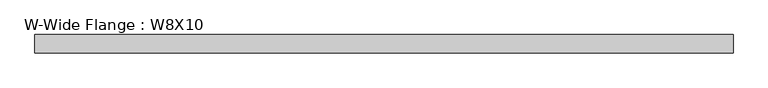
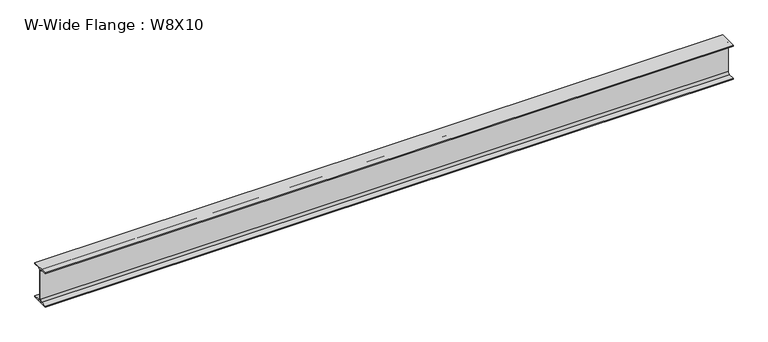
"""IFC4 building model written with IfcOpenShell, lengths in millimetres: beam geometry, W-Wide Flange : W8X10."""

from ifc_helpers import new_model, si_unit, point, frame, frame_2d, origin, place, context, project, spatial, polyline, circle_curve, trimmed, segment, composite_curve, outline, extrude, source, transform, mapped, element, save


def w_wide_flange_w8x10_1bc876d9(model_context):
    return source(origin(), model_context, "Body", "SweptSolid", [
        extrude(outline(composite_curve([segment(polyline([(50.038, -94.996), (50.038, -100.203), (-50.038, -100.203), (-50.038, -94.996), (-14.4145, -94.996)]), True, "CONTINUOUS"), segment(trimmed(circle_curve(frame_2d((-14.4145, -82.7405)), 12.2555), [point((-14.4145, -94.996))], [point((-2.159, -82.7405))], True, "CARTESIAN"), True, "CONTINUOUS"), segment(polyline([(-2.159, -82.7405), (-2.159, 82.7405)]), True, "CONTINUOUS"), segment(trimmed(circle_curve(frame_2d((-14.4145, 82.7405)), 12.2555), [point((-2.159, 82.7405))], [point((-14.4145, 94.996))], True, "CARTESIAN"), True, "CONTINUOUS"), segment(polyline([(-14.4145, 94.996), (-50.038, 94.996), (-50.038, 100.203), (50.038, 100.203), (50.038, 94.996), (14.4145, 94.996)]), True, "CONTINUOUS"), segment(trimmed(circle_curve(frame_2d((14.4145, 82.7405)), 12.2555), [point((14.4145, 94.996))], [point((2.159, 82.7405))], True, "CARTESIAN"), True, "CONTINUOUS"), segment(polyline([(2.159, 82.7405), (2.159, -82.7405)]), True, "CONTINUOUS"), segment(trimmed(circle_curve(frame_2d((14.4145, -82.7405)), 12.2555), [point((2.159, -82.7405))], [point((14.4145, -94.996))], True, "CARTESIAN"), True, "CONTINUOUS"), segment(polyline([(14.4145, -94.996), (50.038, -94.996)]), True, "CONTINUOUS")], self_intersect=False)), frame((-1916.0628906, 0.0, 0.0), z_axis=(1.0, 0.0, 0.0), x_axis=(0.0, 1.0, 0.0)), (0.0, 0.0, 1.0), 3832.1257812),
    ])


if __name__ == "__main__":
    model = new_model("IFC4")
    model_context = context("Model", 3, world=origin())
    ifc_project = project(units=[si_unit("LENGTHUNIT", "METRE", prefix="MILLI")], contexts=[model_context])
    site = spatial("IfcSite", under=ifc_project)
    building = spatial("IfcBuilding", under=site)
    placement = place(None, origin())
    w_wide_flange_w8x10_shape = w_wide_flange_w8x10_1bc876d9(model_context)
    element("IfcBeam", 1, ObjectType="W-Wide Flange : W8X10", at=placement, inside=building, context=model_context, shape_type="MappedRepresentation", body=[
        mapped(w_wide_flange_w8x10_shape, transform((0.0, 0.0, 0.0), x_axis=(1.0, 0.0, 0.0), y_axis=(0.0, 1.0, 0.0), z_axis=(0.0, 0.0, 1.0))),
    ])
    save(model, "model.ifc")
